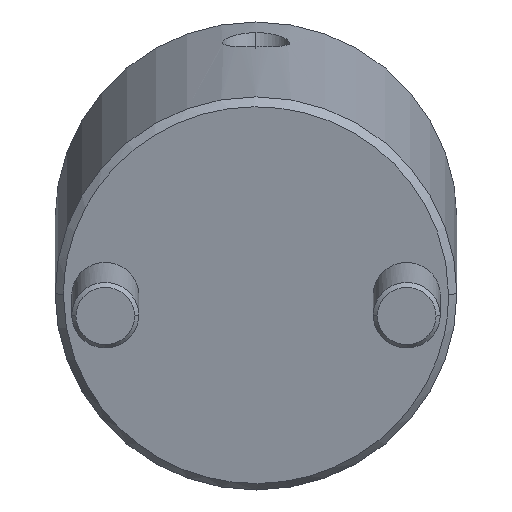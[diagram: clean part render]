
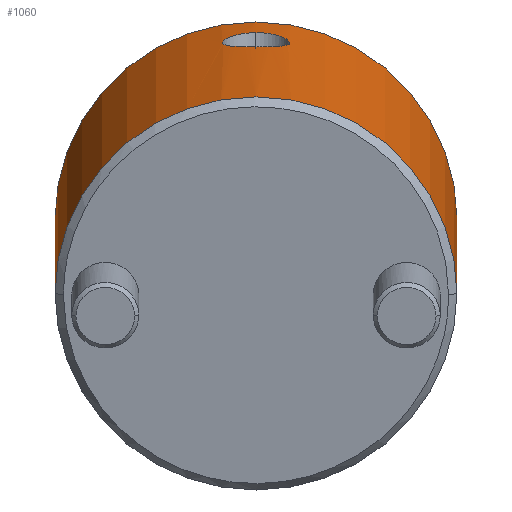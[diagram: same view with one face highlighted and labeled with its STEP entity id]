
A CAD part, front view. The second image highlights one B-rep face of the part: STEP entity #1060.
In plain terms, the highlighted cylindrical face has radius 24 mm (diameter 48 mm), a partial arc.
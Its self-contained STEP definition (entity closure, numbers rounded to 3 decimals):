
#802=CARTESIAN_POINT('Vertex',(0.,24.,1.)) ;
#805=CARTESIAN_POINT('Axis2P3D Location',(0.,0.,1.)) ;
#809=CARTESIAN_POINT('Vertex',(0.,-24.,1.)) ;
#961=CARTESIAN_POINT('Axis2P3D Location',(0.,0.,-2.25)) ;
#966=CARTESIAN_POINT('Line Origine',(0.,24.,-2.25)) ;
#970=CARTESIAN_POINT('Vertex',(0.,24.,44.)) ;
#973=CARTESIAN_POINT('Axis2P3D Location',(0.,0.,44.)) ;
#977=CARTESIAN_POINT('Vertex',(0.,-24.,44.)) ;
#980=CARTESIAN_POINT('Line Origine',(0.,-24.,-2.25)) ;
#992=CARTESIAN_POINT('Control Point',(24.,0.,37.874)) ;
#993=CARTESIAN_POINT('Control Point',(24.,0.58,37.874)) ;
#994=CARTESIAN_POINT('Control Point',(23.982,1.149,37.764)) ;
#995=CARTESIAN_POINT('Control Point',(23.948,1.695,37.545)) ;
#996=CARTESIAN_POINT('Control Point',(23.889,2.357,37.131)) ;
#997=CARTESIAN_POINT('Control Point',(23.824,2.905,36.568)) ;
#998=CARTESIAN_POINT('Control Point',(23.807,3.038,36.415)) ;
#999=CARTESIAN_POINT('Control Point',(23.775,3.282,36.096)) ;
#1000=CARTESIAN_POINT('Control Point',(23.746,3.487,35.749)) ;
#1001=CARTESIAN_POINT('Control Point',(23.732,3.579,35.57)) ;
#1002=CARTESIAN_POINT('Control Point',(23.707,3.741,35.203)) ;
#1003=CARTESIAN_POINT('Control Point',(23.688,3.859,34.82)) ;
#1004=CARTESIAN_POINT('Control Point',(23.68,3.907,34.626)) ;
#1005=CARTESIAN_POINT('Control Point',(23.668,3.979,34.233)) ;
#1006=CARTESIAN_POINT('Control Point',(23.663,4.005,33.833)) ;
#1007=CARTESIAN_POINT('Control Point',(23.663,4.006,33.637)) ;
#1008=CARTESIAN_POINT('Control Point',(23.667,3.985,33.241)) ;
#1009=CARTESIAN_POINT('Control Point',(23.678,3.917,32.853)) ;
#1010=CARTESIAN_POINT('Control Point',(23.686,3.872,32.663)) ;
#1011=CARTESIAN_POINT('Control Point',(23.713,3.702,32.1)) ;
#1012=CARTESIAN_POINT('Control Point',(23.754,3.434,31.578)) ;
#1013=CARTESIAN_POINT('Control Point',(23.786,3.212,31.254)) ;
#1014=CARTESIAN_POINT('Control Point',(23.844,2.759,30.739)) ;
#1015=CARTESIAN_POINT('Control Point',(23.9,2.208,30.333)) ;
#1016=CARTESIAN_POINT('Control Point',(23.922,1.956,30.182)) ;
#1017=CARTESIAN_POINT('Control Point',(23.961,1.43,29.928)) ;
#1018=CARTESIAN_POINT('Control Point',(23.987,0.866,29.773)) ;
#1019=CARTESIAN_POINT('Control Point',(23.996,0.579,29.721)) ;
#1020=CARTESIAN_POINT('Control Point',(24.,0.29,29.695)) ;
#1021=CARTESIAN_POINT('Control Point',(24.,0.,29.695)) ;
#1022=CARTESIAN_POINT('Vertex',(24.,0.,37.874)) ;
#1024=CARTESIAN_POINT('Vertex',(24.,0.,29.695)) ;
#1028=CARTESIAN_POINT('Control Point',(24.,0.,29.695)) ;
#1029=CARTESIAN_POINT('Control Point',(24.,-0.49,29.695)) ;
#1030=CARTESIAN_POINT('Control Point',(23.987,-0.974,29.768)) ;
#1031=CARTESIAN_POINT('Control Point',(23.963,-1.452,29.916)) ;
#1032=CARTESIAN_POINT('Control Point',(23.901,-2.25,30.307)) ;
#1033=CARTESIAN_POINT('Control Point',(23.826,-2.907,30.896)) ;
#1034=CARTESIAN_POINT('Control Point',(23.792,-3.165,31.192)) ;
#1035=CARTESIAN_POINT('Control Point',(23.73,-3.601,31.839)) ;
#1036=CARTESIAN_POINT('Control Point',(23.686,-3.87,32.576)) ;
#1037=CARTESIAN_POINT('Control Point',(23.671,-3.96,32.962)) ;
#1038=CARTESIAN_POINT('Control Point',(23.656,-4.048,33.759)) ;
#1039=CARTESIAN_POINT('Control Point',(23.674,-3.943,34.558)) ;
#1040=CARTESIAN_POINT('Control Point',(23.69,-3.845,34.946)) ;
#1041=CARTESIAN_POINT('Control Point',(23.725,-3.631,35.51)) ;
#1042=CARTESIAN_POINT('Control Point',(23.769,-3.321,36.027)) ;
#1043=CARTESIAN_POINT('Control Point',(23.785,-3.209,36.193)) ;
#1044=CARTESIAN_POINT('Control Point',(23.817,-2.963,36.511)) ;
#1045=CARTESIAN_POINT('Control Point',(23.85,-2.684,36.795)) ;
#1046=CARTESIAN_POINT('Control Point',(23.866,-2.537,36.927)) ;
#1047=CARTESIAN_POINT('Control Point',(23.897,-2.23,37.171)) ;
#1048=CARTESIAN_POINT('Control Point',(23.926,-1.899,37.376)) ;
#1049=CARTESIAN_POINT('Control Point',(23.939,-1.727,37.468)) ;
#1050=CARTESIAN_POINT('Control Point',(23.968,-1.296,37.665)) ;
#1051=CARTESIAN_POINT('Control Point',(23.988,-0.84,37.795)) ;
#1052=CARTESIAN_POINT('Control Point',(23.996,-0.563,37.848)) ;
#1053=CARTESIAN_POINT('Control Point',(24.,-0.283,37.874)) ;
#1054=CARTESIAN_POINT('Control Point',(24.,0.,37.874)) ;
#806=DIRECTION('Axis2P3D Direction',(0.,0.,1.)) ;
#962=DIRECTION('Axis2P3D Direction',(0.,-0.,1.)) ;
#963=DIRECTION('Axis2P3D XDirection',(0.,-1.,0.)) ;
#967=DIRECTION('Vector Direction',(0.,0.,1.)) ;
#974=DIRECTION('Axis2P3D Direction',(0.,-0.,1.)) ;
#981=DIRECTION('Vector Direction',(0.,0.,1.)) ;
#807=AXIS2_PLACEMENT_3D('Circle Axis2P3D',#805,#806,$) ;
#964=AXIS2_PLACEMENT_3D('Cylinder Axis2P3D',#961,#962,#963) ;
#975=AXIS2_PLACEMENT_3D('Circle Axis2P3D',#973,#974,$) ;
#986=ORIENTED_EDGE('',*,*,#972,.F.) ;
#987=ORIENTED_EDGE('',*,*,#979,.T.) ;
#988=ORIENTED_EDGE('',*,*,#984,.T.) ;
#989=ORIENTED_EDGE('',*,*,#811,.F.) ;
#1057=ORIENTED_EDGE('',*,*,#1026,.T.) ;
#1058=ORIENTED_EDGE('',*,*,#1055,.T.) ;
#1059=FACE_BOUND('',#1056,.T.) ;
#968=VECTOR('Line Direction',#967,1.) ;
#982=VECTOR('Line Direction',#981,1.) ;
#1060=ADVANCED_FACE('MANIFOLD_SOLID_BREP #1138',(#990,#1059),#965,.T.) ;
#991=B_SPLINE_CURVE_WITH_KNOTS('',5,(#992,#993,#994,#995,#996,#997,#998,#999,#1000,#1001,#1002,#1003,#1004,#1005,#1006,#1007,#1008,#1009,#1010,#1011,#1012,#1013,#1014,#1015,#1016,#1017,#1018,#1019,#1020,#1021),.UNSPECIFIED.,.F.,.U.,(6,3,3,3,3,3,3,3,3,6),(0.,4.127,5.522,6.925,8.324,9.701,11.081,13.863,15.95,18.011),.UNSPECIFIED.) ;
#1027=B_SPLINE_CURVE_WITH_KNOTS('',5,(#1028,#1029,#1030,#1031,#1032,#1033,#1034,#1035,#1036,#1037,#1038,#1039,#1040,#1041,#1042,#1043,#1044,#1045,#1046,#1047,#1048,#1049,#1050,#1051,#1052,#1053,#1054),.UNSPECIFIED.,.F.,.U.,(6,3,3,3,3,3,3,3,6),(0.,3.481,6.264,9.022,11.811,13.212,14.61,15.999,18.009),.UNSPECIFIED.) ;
#808=CIRCLE('generated circle',#807,24.) ;
#976=CIRCLE('generated circle',#975,24.) ;
#965=CYLINDRICAL_SURFACE('generated cylinder',#964,24.) ;
#811=EDGE_CURVE('',#803,#810,#808,.F.) ;
#972=EDGE_CURVE('',#971,#803,#969,.F.) ;
#979=EDGE_CURVE('',#971,#978,#976,.F.) ;
#984=EDGE_CURVE('',#978,#810,#983,.F.) ;
#1026=EDGE_CURVE('',#1023,#1025,#991,.T.) ;
#1055=EDGE_CURVE('',#1025,#1023,#1027,.T.) ;
#985=EDGE_LOOP('',(#986,#987,#988,#989)) ;
#1056=EDGE_LOOP('',(#1057,#1058)) ;
#990=FACE_OUTER_BOUND('',#985,.T.) ;
#969=LINE('Line',#966,#968) ;
#983=LINE('Line',#980,#982) ;
#803=VERTEX_POINT('',#802) ;
#810=VERTEX_POINT('',#809) ;
#971=VERTEX_POINT('',#970) ;
#978=VERTEX_POINT('',#977) ;
#1023=VERTEX_POINT('',#1022) ;
#1025=VERTEX_POINT('',#1024) ;
